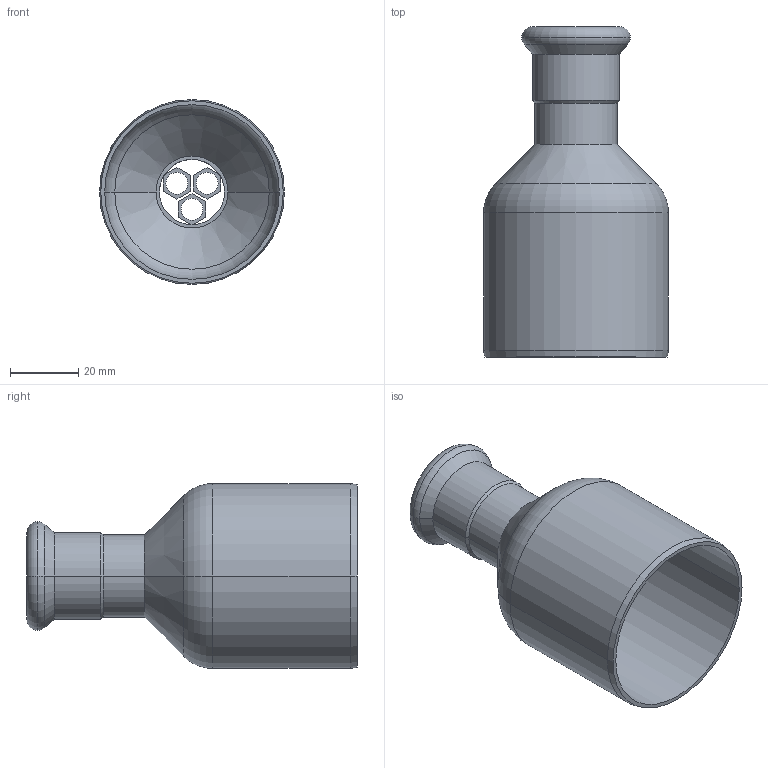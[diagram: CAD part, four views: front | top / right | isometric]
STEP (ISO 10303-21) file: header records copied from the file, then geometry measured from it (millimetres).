
FILE_DESCRIPTION(('OneSpaceDesigner STEP Export'),'2;1');
FILE_NAME('R2707 22x54.stp','2010-06-09T13:17:40',(''),(''),'OneSpace Designer STEP processor for AP214 (Solid Model)','OneSpace Modeling 15.00A 14-Mar-2007 (C) CoCreate Software GmbH','');
FILE_SCHEMA(('AUTOMOTIVE_DESIGN { 1 0 10303 214 1 1 1 1 }'));
Length unit declared in the file: millimetre
Products named in the file (2): R2707_22x54
Assembly tree (1 placements, depth 2):
  R2707_22x54
    R2707_22x54
Bounding box: 54 x 96.5 x 54 mm (x, y, z)
Volume: 21419.3 mm3; surface area: 26646 mm2
Topology: 1 solids, 1 shells, 75 faces, 178 edges, 111 vertices
Faces by surface type: plane 32, cylinder 25, cone 10, torus 8
Entity records: 1911 total; most frequent: ORIENTED_EDGE 356, CARTESIAN_POINT 303, DIRECTION 283, EDGE_CURVE 178, VERTEX_POINT 111, VECTOR 101, LINE 101, AXIS2_PLACEMENT_3D 91
